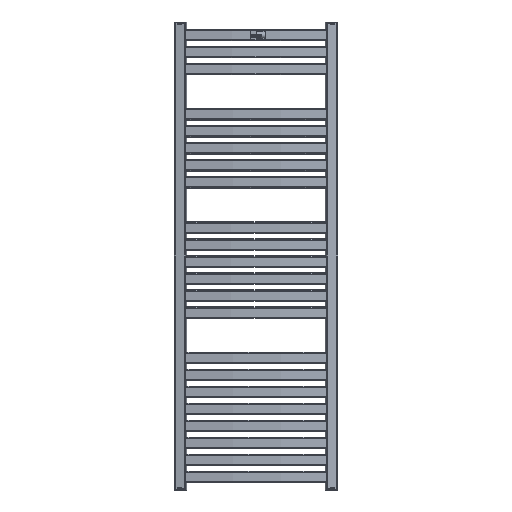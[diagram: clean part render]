
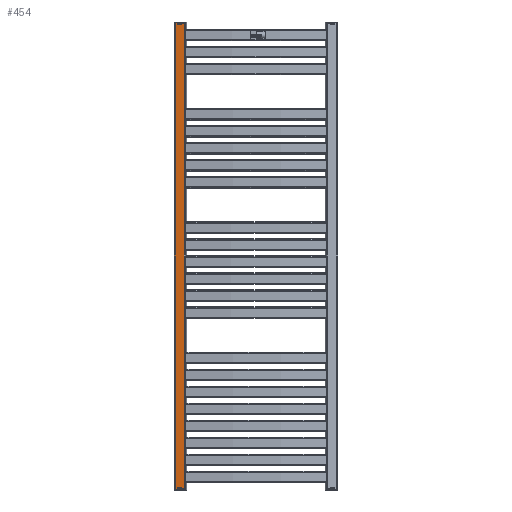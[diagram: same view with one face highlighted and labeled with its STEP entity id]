
A CAD part, front view. The second image highlights one B-rep face of the part: STEP entity #454.
In plain terms, the highlighted planar face has unit normal (-0.157, -0.988, 0) as drawn and (1, 0, 0) by its records, which use the part's own axes.
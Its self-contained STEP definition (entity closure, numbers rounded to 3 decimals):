
#454 = ADVANCED_FACE( '', ( #1077 ), #1078, .T. );
#1077 = FACE_OUTER_BOUND( '', #1939, .T. );
#1078 = PLANE( '', #1940 );
#1939 = EDGE_LOOP( '', ( #3210, #3211, #3212, #3213 ) );
#1940 = AXIS2_PLACEMENT_3D( '', #3214, #3215, #3216 );
#3210 = ORIENTED_EDGE( '', *, *, #5278, .T. );
#3211 = ORIENTED_EDGE( '', *, *, #4959, .T. );
#3212 = ORIENTED_EDGE( '', *, *, #5279, .F. );
#3213 = ORIENTED_EDGE( '', *, *, #5280, .T. );
#3214 = CARTESIAN_POINT( '', ( 15., 1236., -15. ) );
#3215 = DIRECTION( '', ( 1., 0., 0. ) );
#3216 = DIRECTION( '', ( 0., 0., -1. ) );
#4959 = EDGE_CURVE( '', #5919, #5923, #5925, .T. );
#5278 = EDGE_CURVE( '', #6466, #5919, #6467, .T. );
#5279 = EDGE_CURVE( '', #6468, #5923, #6469, .T. );
#5280 = EDGE_CURVE( '', #6468, #6466, #6470, .F. );
#5919 = VERTEX_POINT( '', #7331 );
#5923 = VERTEX_POINT( '', #7336 );
#5925 = LINE( '', #7338, #7339 );
#6466 = VERTEX_POINT( '', #8031 );
#6467 = LINE( '', #8032, #8033 );
#6468 = VERTEX_POINT( '', #8034 );
#6469 = LINE( '', #8035, #8036 );
#6470 = LINE( '', #8037, #8038 );
#7331 = CARTESIAN_POINT( '', ( 15., 1236., 12. ) );
#7336 = CARTESIAN_POINT( '', ( 15., 0., 12. ) );
#7338 = CARTESIAN_POINT( '', ( 15., 1236., 12. ) );
#7339 = VECTOR( '', #9111, 1000. );
#8031 = CARTESIAN_POINT( '', ( 15., 1236., -12. ) );
#8032 = CARTESIAN_POINT( '', ( 15., 1236., -15. ) );
#8033 = VECTOR( '', #9560, 1000. );
#8034 = CARTESIAN_POINT( '', ( 15., 0., -12. ) );
#8035 = CARTESIAN_POINT( '', ( 15., 0., -15. ) );
#8036 = VECTOR( '', #9561, 1000. );
#8037 = CARTESIAN_POINT( '', ( 15., 1236., -12. ) );
#8038 = VECTOR( '', #9562, 1000. );
#9111 = DIRECTION( '', ( 0., -1., 0. ) );
#9560 = DIRECTION( '', ( 0., 0., 1. ) );
#9561 = DIRECTION( '', ( 0., 0., 1. ) );
#9562 = DIRECTION( '', ( 0., -1., 0. ) );
